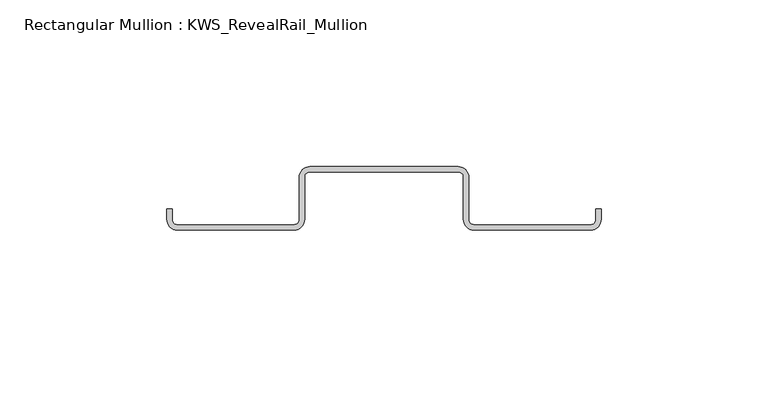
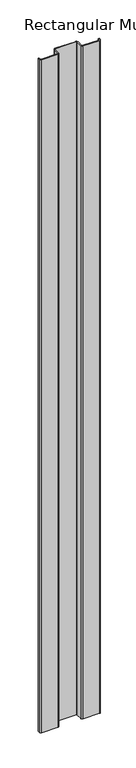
"""IFC4 building model written with IfcOpenShell, lengths in millimetres: member geometry, Rectangular Mullion : KWS_RevealRail_Mullion."""

from ifc_helpers import new_model, si_unit, point, frame, frame_2d, origin, place, context, project, spatial, polyline, circle_curve, trimmed, segment, composite_curve, outline, extrude, source, transform, mapped, element, save


def rectangular_mullion_kws_revealrail_mullion_add762a1(model_context):
    return source(origin(), model_context, "Body", "SweptSolid", [
        extrude(outline(composite_curve([segment(polyline([(-65.0875, -15.8115), (-65.0875, -12.6365), (-63.5, -12.6365), (-63.5, -15.8115)]), True, "CONTINUOUS"), segment(trimmed(circle_curve(frame_2d((-61.9125, -15.8115)), 1.5875), [point((-63.5, -15.8115))], [point((-61.9125, -17.399))], True, "CARTESIAN"), True, "CONTINUOUS"), segment(polyline([(-61.9125, -17.399), (-26.9875, -17.399)]), True, "CONTINUOUS"), segment(trimmed(circle_curve(frame_2d((-26.9875, -15.8115)), 1.5875), [point((-26.9875, -17.399))], [point((-25.4, -15.8115))], True, "CARTESIAN"), True, "CONTINUOUS"), segment(polyline([(-25.4, -15.8115), (-25.4, -3.1115)]), True, "CONTINUOUS"), segment(trimmed(circle_curve(frame_2d((-22.225, -3.1115)), 3.175), [point((-25.4, -3.1115))], [point((-22.225, 0.0635))], False, "CARTESIAN"), True, "CONTINUOUS"), segment(polyline([(-22.225, 0.0635), (22.225, 0.0635)]), True, "CONTINUOUS"), segment(trimmed(circle_curve(frame_2d((22.225, -3.1115)), 3.175), [point((22.225, 0.0635))], [point((25.4, -3.1115))], False, "CARTESIAN"), True, "CONTINUOUS"), segment(polyline([(25.4, -3.1115), (25.4, -15.8115)]), True, "CONTINUOUS"), segment(trimmed(circle_curve(frame_2d((26.9875, -15.8115)), 1.5875), [point((25.4, -15.8115))], [point((26.9875, -17.399))], True, "CARTESIAN"), True, "CONTINUOUS"), segment(polyline([(26.9875, -17.399), (61.9125, -17.399)]), True, "CONTINUOUS"), segment(trimmed(circle_curve(frame_2d((61.9125, -15.8115)), 1.5875), [point((61.9125, -17.399))], [point((63.5, -15.8115))], True, "CARTESIAN"), True, "CONTINUOUS"), segment(polyline([(63.5, -15.8115), (63.5, -12.6365), (65.0875, -12.6365), (65.0875, -15.8115)]), True, "CONTINUOUS"), segment(trimmed(circle_curve(frame_2d((61.9125, -15.8115)), 3.175), [point((65.0875, -15.8115))], [point((61.9125, -18.9865))], False, "CARTESIAN"), True, "CONTINUOUS"), segment(polyline([(61.9125, -18.9865), (26.9875, -18.9865)]), True, "CONTINUOUS"), segment(trimmed(circle_curve(frame_2d((26.9875, -15.8115)), 3.175), [point((26.9875, -18.9865))], [point((23.8125, -15.8115))], False, "CARTESIAN"), True, "CONTINUOUS"), segment(polyline([(23.8125, -15.8115), (23.8125, -3.1115)]), True, "CONTINUOUS"), segment(trimmed(circle_curve(frame_2d((22.225, -3.1115)), 1.5875), [point((23.8125, -3.1115))], [point((22.225, -1.524))], True, "CARTESIAN"), True, "CONTINUOUS"), segment(polyline([(22.225, -1.524), (-22.225, -1.524)]), True, "CONTINUOUS"), segment(trimmed(circle_curve(frame_2d((-22.225, -3.1115)), 1.5875), [point((-22.225, -1.524))], [point((-23.8125, -3.1115))], True, "CARTESIAN"), True, "CONTINUOUS"), segment(polyline([(-23.8125, -3.1115), (-23.8125, -15.8115)]), True, "CONTINUOUS"), segment(trimmed(circle_curve(frame_2d((-26.9875, -15.8115)), 3.175), [point((-23.8125, -15.8115))], [point((-26.9875, -18.9865))], False, "CARTESIAN"), True, "CONTINUOUS"), segment(polyline([(-26.9875, -18.9865), (-61.9125, -18.9865)]), True, "CONTINUOUS"), segment(trimmed(circle_curve(frame_2d((-61.9125, -15.8115)), 3.175), [point((-61.9125, -18.9865))], [point((-65.0875, -15.8115))], False, "CARTESIAN"), True, "CONTINUOUS")], self_intersect=False)), frame((0.0, 0.0, -1524.0), z_axis=(0.0, 0.0, 1.0), x_axis=(1.0, 0.0, 0.0)), (0.0, 0.0, 1.0), 1524.0),
    ])


if __name__ == "__main__":
    model = new_model("IFC4")
    model_context = context("Model", 3, world=origin())
    ifc_project = project(units=[si_unit("LENGTHUNIT", "METRE", prefix="MILLI")], contexts=[model_context])
    site = spatial("IfcSite", under=ifc_project)
    building = spatial("IfcBuilding", under=site)
    placement = place(None, origin())
    rectangular_mullion_kws_revealrail_mullion_shape = rectangular_mullion_kws_revealrail_mullion_add762a1(model_context)
    element("IfcMember", 1, ObjectType="Rectangular Mullion : KWS_RevealRail_Mullion", at=placement, inside=building, context=model_context, shape_type="MappedRepresentation", body=[
        mapped(rectangular_mullion_kws_revealrail_mullion_shape, transform((0.0, 0.0, 0.0), x_axis=(1.0, 0.0, 0.0), y_axis=(0.0, 1.0, 0.0), z_axis=(0.0, 0.0, 1.0))),
    ])
    save(model, "model.ifc")
